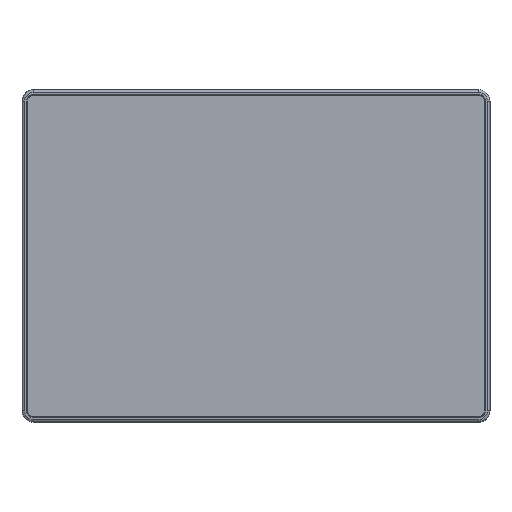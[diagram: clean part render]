
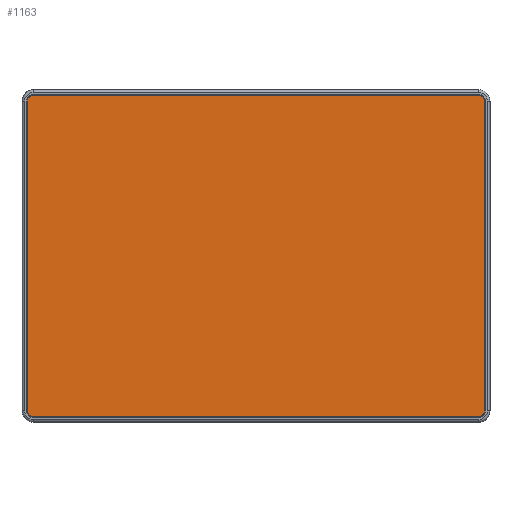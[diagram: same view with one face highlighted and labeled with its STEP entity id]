
A CAD part, top view. The second image highlights one B-rep face of the part: STEP entity #1163.
In plain terms, the highlighted planar face has unit normal (0, 0, 1).
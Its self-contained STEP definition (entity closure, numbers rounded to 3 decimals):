
#1163=ADVANCED_FACE('',(#2350),#16139,.T.);
#2350=FACE_OUTER_BOUND('',#3537,.T.);
#3537=EDGE_LOOP('',(#4819,#4820,#4821,#4822,#4823,#4824,#4825,#4826));
#4819=ORIENTED_EDGE('',*,*,#11037,.F.);
#4820=ORIENTED_EDGE('',*,*,#11034,.F.);
#4821=ORIENTED_EDGE('',*,*,#11031,.F.);
#4822=ORIENTED_EDGE('',*,*,#11028,.F.);
#4823=ORIENTED_EDGE('',*,*,#11025,.F.);
#4824=ORIENTED_EDGE('',*,*,#11022,.F.);
#4825=ORIENTED_EDGE('',*,*,#11019,.F.);
#4826=ORIENTED_EDGE('',*,*,#11015,.F.);
#11015=EDGE_CURVE('',#14129,#14130,#17030,.T.);
#11019=EDGE_CURVE('',#14130,#14133,#17034,.T.);
#11022=EDGE_CURVE('',#14133,#14135,#17037,.T.);
#11025=EDGE_CURVE('',#14135,#14137,#17040,.T.);
#11028=EDGE_CURVE('',#14137,#14139,#17043,.T.);
#11031=EDGE_CURVE('',#14139,#14141,#17046,.T.);
#11034=EDGE_CURVE('',#14141,#14143,#17049,.T.);
#11037=EDGE_CURVE('',#14143,#14129,#17052,.T.);
#14129=VERTEX_POINT('',#21786);
#14130=VERTEX_POINT('',#21787);
#14133=VERTEX_POINT('',#21790);
#14135=VERTEX_POINT('',#21792);
#14137=VERTEX_POINT('',#21794);
#14139=VERTEX_POINT('',#21796);
#14141=VERTEX_POINT('',#21798);
#14143=VERTEX_POINT('',#21800);
#16139=PLANE('',#19560);
#17030=B_SPLINE_CURVE_WITH_KNOTS('',3,(#21802,#21803,#21804,#21805),
 .UNSPECIFIED.,.F.,.F.,(4,4),(-1.,-0.846),.UNSPECIFIED.);
#17034=B_SPLINE_CURVE_WITH_KNOTS('',3,(#21814,#21815,#21816,#21817,#21818,
#21819,#21820),.UNSPECIFIED.,.F.,.F.,(4,3,4),(-0.846,-0.769,
-0.692),.UNSPECIFIED.);
#17037=B_SPLINE_CURVE_WITH_KNOTS('',3,(#21830,#21831,#21832,#21833),
 .UNSPECIFIED.,.F.,.F.,(4,4),(-0.692,-0.615),
 .UNSPECIFIED.);
#17040=B_SPLINE_CURVE_WITH_KNOTS('',3,(#21840,#21841,#21842,#21843,#21844,
#21845,#21846),.UNSPECIFIED.,.F.,.F.,(4,3,4),(-0.615,-0.538,
-0.462),.UNSPECIFIED.);
#17043=B_SPLINE_CURVE_WITH_KNOTS('',3,(#21856,#21857,#21858,#21859),
 .UNSPECIFIED.,.F.,.F.,(4,4),(-0.462,-0.385),
 .UNSPECIFIED.);
#17046=B_SPLINE_CURVE_WITH_KNOTS('',3,(#21866,#21867,#21868,#21869,#21870,
#21871,#21872),.UNSPECIFIED.,.F.,.F.,(4,3,4),(-0.385,-0.308,
-0.231),.UNSPECIFIED.);
#17049=B_SPLINE_CURVE_WITH_KNOTS('',3,(#21882,#21883,#21884,#21885),
 .UNSPECIFIED.,.F.,.F.,(4,4),(-0.231,-0.154),
 .UNSPECIFIED.);
#17052=B_SPLINE_CURVE_WITH_KNOTS('',3,(#21892,#21893,#21894,#21895,#21896,
#21897,#21898),.UNSPECIFIED.,.F.,.F.,(4,3,4),(-0.154,-0.077,
0.),.UNSPECIFIED.);
#19560=AXIS2_PLACEMENT_3D('',#21784,#20321,$);
#20321=DIRECTION('',(0.,0.,1.));
#21784=CARTESIAN_POINT('',(124.487,-80.612,7.2));
#21786=CARTESIAN_POINT('',(-97.,77.09,7.2));
#21787=CARTESIAN_POINT('',(97.,77.09,7.2));
#21790=CARTESIAN_POINT('',(99.59,74.5,7.2));
#21792=CARTESIAN_POINT('',(99.59,-60.5,7.2));
#21794=CARTESIAN_POINT('',(97.,-63.09,7.2));
#21796=CARTESIAN_POINT('',(-97.,-63.09,7.2));
#21798=CARTESIAN_POINT('',(-99.59,-60.5,7.2));
#21800=CARTESIAN_POINT('',(-99.59,74.5,7.2));
#21802=CARTESIAN_POINT('',(-97.,77.09,7.2));
#21803=CARTESIAN_POINT('',(-32.333,77.09,7.2));
#21804=CARTESIAN_POINT('',(32.333,77.09,7.2));
#21805=CARTESIAN_POINT('',(97.,77.09,7.2));
#21814=CARTESIAN_POINT('',(97.,77.09,7.2));
#21815=CARTESIAN_POINT('',(97.788,77.09,7.2));
#21816=CARTESIAN_POINT('',(98.453,76.727,7.2));
#21817=CARTESIAN_POINT('',(98.939,76.119,7.2));
#21818=CARTESIAN_POINT('',(99.274,75.7,7.2));
#21819=CARTESIAN_POINT('',(99.59,75.047,7.2));
#21820=CARTESIAN_POINT('',(99.59,74.5,7.2));
#21830=CARTESIAN_POINT('',(99.59,74.5,7.2));
#21831=CARTESIAN_POINT('',(99.59,29.5,7.2));
#21832=CARTESIAN_POINT('',(99.59,-15.5,7.2));
#21833=CARTESIAN_POINT('',(99.59,-60.5,7.2));
#21840=CARTESIAN_POINT('',(99.59,-60.5,7.2));
#21841=CARTESIAN_POINT('',(99.59,-61.288,7.2));
#21842=CARTESIAN_POINT('',(99.227,-61.953,7.2));
#21843=CARTESIAN_POINT('',(98.619,-62.439,7.2));
#21844=CARTESIAN_POINT('',(98.2,-62.774,7.2));
#21845=CARTESIAN_POINT('',(97.547,-63.09,7.2));
#21846=CARTESIAN_POINT('',(97.,-63.09,7.2));
#21856=CARTESIAN_POINT('',(97.,-63.09,7.2));
#21857=CARTESIAN_POINT('',(32.333,-63.09,7.2));
#21858=CARTESIAN_POINT('',(-32.333,-63.09,7.2));
#21859=CARTESIAN_POINT('',(-97.,-63.09,7.2));
#21866=CARTESIAN_POINT('',(-97.,-63.09,7.2));
#21867=CARTESIAN_POINT('',(-97.788,-63.09,7.2));
#21868=CARTESIAN_POINT('',(-98.453,-62.727,7.2));
#21869=CARTESIAN_POINT('',(-98.939,-62.119,7.2));
#21870=CARTESIAN_POINT('',(-99.274,-61.7,7.2));
#21871=CARTESIAN_POINT('',(-99.59,-61.047,7.2));
#21872=CARTESIAN_POINT('',(-99.59,-60.5,7.2));
#21882=CARTESIAN_POINT('',(-99.59,-60.5,7.2));
#21883=CARTESIAN_POINT('',(-99.59,-15.5,7.2));
#21884=CARTESIAN_POINT('',(-99.59,29.5,7.2));
#21885=CARTESIAN_POINT('',(-99.59,74.5,7.2));
#21892=CARTESIAN_POINT('',(-99.59,74.5,7.2));
#21893=CARTESIAN_POINT('',(-99.59,75.288,7.2));
#21894=CARTESIAN_POINT('',(-99.227,75.953,7.2));
#21895=CARTESIAN_POINT('',(-98.619,76.439,7.2));
#21896=CARTESIAN_POINT('',(-98.2,76.774,7.2));
#21897=CARTESIAN_POINT('',(-97.547,77.09,7.2));
#21898=CARTESIAN_POINT('',(-97.,77.09,7.2));
